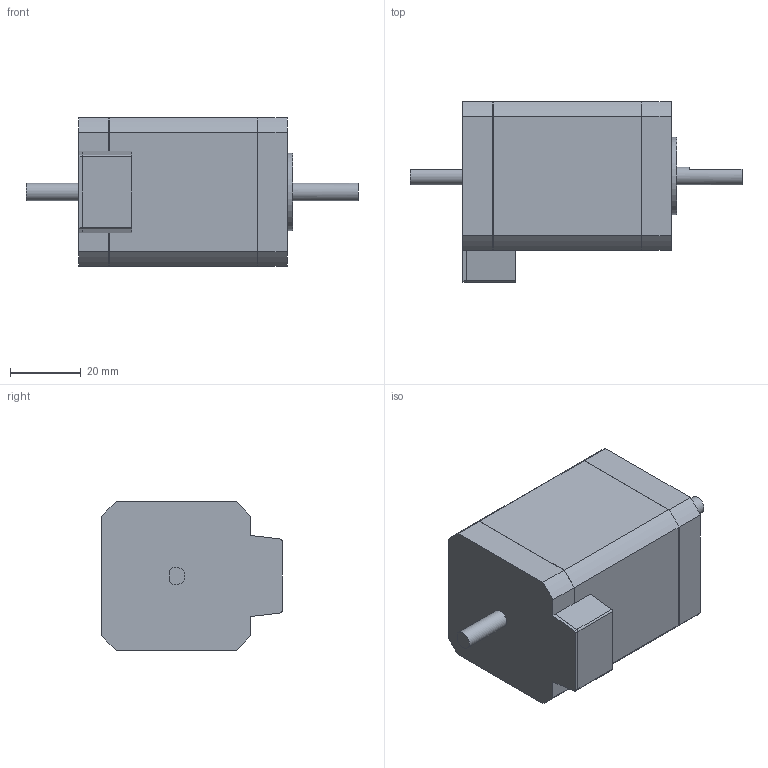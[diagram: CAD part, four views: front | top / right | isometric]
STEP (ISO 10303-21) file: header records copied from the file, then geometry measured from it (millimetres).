
FILE_DESCRIPTION( ( 'STEP AP203' ), '1' );
FILE_NAME( '//S38133/base/local/Torisetsu/WEB2CAD/WORK/CVK/STEP/CVK246BK.stp', ' ', ( ' ' ), ( ' ' ), 'PSStep 15.0.47', 'PARTsolutions', ' ' );
FILE_SCHEMA( ( 'CONFIG_CONTROL_DESIGN' ) );
Length unit declared in the file: millimetre
Products named in the file (1): HI_CVK246BK
Bounding box: 94 x 51 x 42 mm (x, y, z)
Volume: 106110.7 mm3; surface area: 14373.4 mm2
Topology: 1 solids, 1 shells, 106 faces, 265 edges, 174 vertices
Faces by surface type: plane 58, cylinder 40, cone 8
Full cylindrical faces by diameter (mm): 1 x6, 2.459 x4, 5 x1, 22 x1, 32 x1
Entity records: 3048 total; most frequent: DIRECTION 534, CARTESIAN_POINT 511, ORIENTED_EDGE 470, EDGE_CURVE 235, AXIS2_PLACEMENT_3D 192, VERTEX_POINT 169, LINE 150, VECTOR 150
